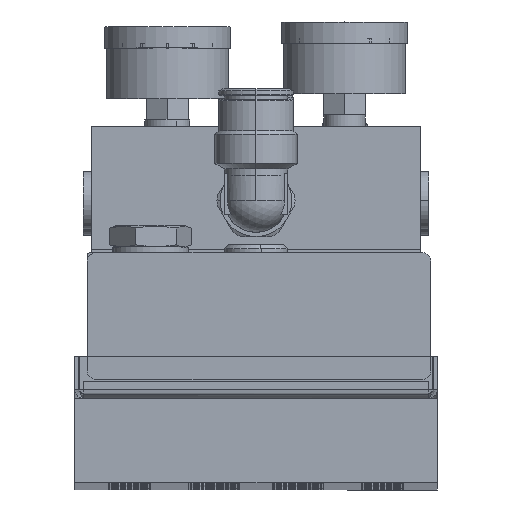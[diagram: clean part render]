
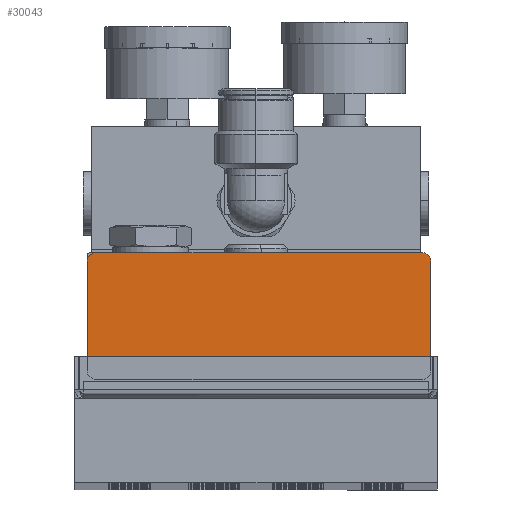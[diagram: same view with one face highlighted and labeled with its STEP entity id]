
A CAD part, top view. The second image highlights one B-rep face of the part: STEP entity #30043.
In plain terms, the highlighted planar face has unit normal (0, 0, 1).
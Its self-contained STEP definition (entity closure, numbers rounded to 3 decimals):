
#2268 = EDGE_CURVE ( 'NONE', #24619, #24628, #17849, .T. ) ;
#2272 = EDGE_CURVE ( 'NONE', #24631, #24637, #17932, .T. ) ;
#2289 = EDGE_CURVE ( 'NONE', #24635, #24641, #17823, .T. ) ;
#2290 = EDGE_CURVE ( 'NONE', #24628, #24633, #17742, .T. ) ;
#2320 = EDGE_CURVE ( 'NONE', #24633, #24631, #48401, .T. ) ;
#2323 = EDGE_CURVE ( 'NONE', #24637, #24635, #48403, .T. ) ;
#2344 = EDGE_CURVE ( 'NONE', #24641, #24629, #48234, .T. ) ;
#2432 = EDGE_CURVE ( 'NONE', #24629, #24619, #48296, .T. ) ;
#6387 = ORIENTED_EDGE ( 'NONE', *, *, #2268, .T. ) ;
#6436 = ORIENTED_EDGE ( 'NONE', *, *, #2272, .T. ) ;
#6831 = ORIENTED_EDGE ( 'NONE', *, *, #2344, .T. ) ;
#6853 = ORIENTED_EDGE ( 'NONE', *, *, #2290, .T. ) ;
#6875 = ORIENTED_EDGE ( 'NONE', *, *, #2323, .T. ) ;
#6982 = ORIENTED_EDGE ( 'NONE', *, *, #2289, .T. ) ;
#6994 = ORIENTED_EDGE ( 'NONE', *, *, #2432, .T. ) ;
#7015 = ORIENTED_EDGE ( 'NONE', *, *, #2320, .T. ) ;
#12616 = EDGE_LOOP ( 'NONE', ( #6994, #6387, #6853, #7015, #6436, #6875, #6982, #6831 ) ) ;
#17742 = CIRCLE ( 'NONE', #26938, 2. ) ;
#17823 = CIRCLE ( 'NONE', #26940, 2. ) ;
#17849 = LINE ( 'NONE', #40616, #17943 ) ;
#17932 = CIRCLE ( 'NONE', #26946, 2. ) ;
#17943 = VECTOR ( 'NONE', #40623, 1000. ) ;
#23824 = PLANE ( 'NONE',  #34651 ) ;
#23848 = CARTESIAN_POINT ( 'NONE',  ( -78.774, 53.105, 495.27 ) ) ;
#23849 = DIRECTION ( 'NONE',  ( 0., 0., -1. ) ) ;
#23851 = DIRECTION ( 'NONE',  ( -1., 0., 0. ) ) ;
#24619 = VERTEX_POINT ( 'NONE', #53855 ) ;
#24628 = VERTEX_POINT ( 'NONE', #53872 ) ;
#24629 = VERTEX_POINT ( 'NONE', #53873 ) ;
#24631 = VERTEX_POINT ( 'NONE', #53877 ) ;
#24633 = VERTEX_POINT ( 'NONE', #53881 ) ;
#24635 = VERTEX_POINT ( 'NONE', #53885 ) ;
#24637 = VERTEX_POINT ( 'NONE', #53888 ) ;
#24641 = VERTEX_POINT ( 'NONE', #53896 ) ;
#26938 = AXIS2_PLACEMENT_3D ( 'NONE', #40744, #40746, #40748 ) ;
#26940 = AXIS2_PLACEMENT_3D ( 'NONE', #40736, #40738, #40740 ) ;
#26946 = AXIS2_PLACEMENT_3D ( 'NONE', #40652, #40654, #40655 ) ;
#27112 = AXIS2_PLACEMENT_3D ( 'NONE', #42244, #42247, #42250 ) ;
#30043 = ADVANCED_FACE ( 'NONE', ( #46712 ), #23824, .F. ) ;
#34651 = AXIS2_PLACEMENT_3D ( 'NONE', #23848, #23849, #23851 ) ;
#40616 = CARTESIAN_POINT ( 'NONE',  ( -80.774, 53.105, 495.27 ) ) ;
#40623 = DIRECTION ( 'NONE',  ( 0., -1., 0. ) ) ;
#40652 = CARTESIAN_POINT ( 'NONE',  ( -1.274, 27.105, 495.27 ) ) ;
#40654 = DIRECTION ( 'NONE',  ( 0., 0., 1. ) ) ;
#40655 = DIRECTION ( 'NONE',  ( 1., 0., 0. ) ) ;
#40736 = CARTESIAN_POINT ( 'NONE',  ( -1.274, 53.105, 495.27 ) ) ;
#40738 = DIRECTION ( 'NONE',  ( 0., 0., 1. ) ) ;
#40740 = DIRECTION ( 'NONE',  ( 1., 0., 0. ) ) ;
#40744 = CARTESIAN_POINT ( 'NONE',  ( -78.774, 27.105, 495.27 ) ) ;
#40746 = DIRECTION ( 'NONE',  ( 0., 0., 1. ) ) ;
#40748 = DIRECTION ( 'NONE',  ( -1., 0., 0. ) ) ;
#40972 = DIRECTION ( 'NONE',  ( 0., 1., 0. ) ) ;
#40977 = CARTESIAN_POINT ( 'NONE',  ( 0.726, 53.105, 495.27 ) ) ;
#40997 = CARTESIAN_POINT ( 'NONE',  ( -78.774, 25.105, 495.27 ) ) ;
#41001 = DIRECTION ( 'NONE',  ( 1., 0., 0. ) ) ;
#41206 = CARTESIAN_POINT ( 'NONE',  ( -78.774, 55.105, 495.27 ) ) ;
#41209 = DIRECTION ( 'NONE',  ( -1., 0., 0. ) ) ;
#42244 = CARTESIAN_POINT ( 'NONE',  ( -78.774, 53.105, 495.27 ) ) ;
#42247 = DIRECTION ( 'NONE',  ( 0., 0., 1. ) ) ;
#42250 = DIRECTION ( 'NONE',  ( -1., 0., 0. ) ) ;
#46712 = FACE_OUTER_BOUND ( 'NONE', #12616, .T. ) ;
#48234 = LINE ( 'NONE', #41206, #48280 ) ;
#48280 = VECTOR ( 'NONE', #41209, 1000. ) ;
#48296 = CIRCLE ( 'NONE', #27112, 2. ) ;
#48302 = VECTOR ( 'NONE', #41001, 1000. ) ;
#48401 = LINE ( 'NONE', #40997, #48302 ) ;
#48403 = LINE ( 'NONE', #40977, #48414 ) ;
#48414 = VECTOR ( 'NONE', #40972, 1000. ) ;
#53855 = CARTESIAN_POINT ( 'NONE',  ( -80.774, 53.105, 495.27 ) ) ;
#53872 = CARTESIAN_POINT ( 'NONE',  ( -80.774, 27.105, 495.27 ) ) ;
#53873 = CARTESIAN_POINT ( 'NONE',  ( -78.774, 55.105, 495.27 ) ) ;
#53877 = CARTESIAN_POINT ( 'NONE',  ( -1.274, 25.105, 495.27 ) ) ;
#53881 = CARTESIAN_POINT ( 'NONE',  ( -78.774, 25.105, 495.27 ) ) ;
#53885 = CARTESIAN_POINT ( 'NONE',  ( 0.726, 53.105, 495.27 ) ) ;
#53888 = CARTESIAN_POINT ( 'NONE',  ( 0.726, 27.105, 495.27 ) ) ;
#53896 = CARTESIAN_POINT ( 'NONE',  ( -1.274, 55.105, 495.27 ) ) ;
